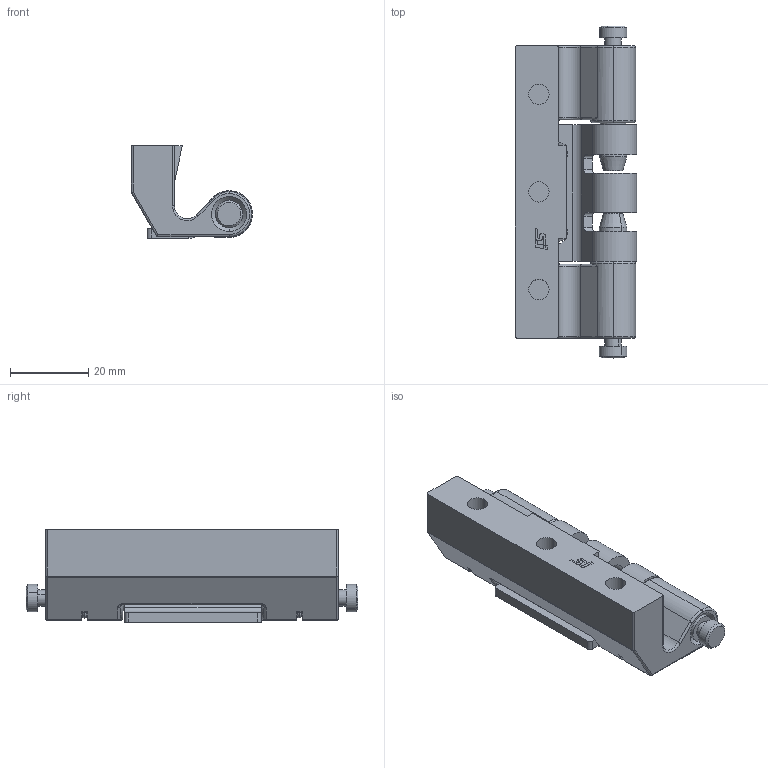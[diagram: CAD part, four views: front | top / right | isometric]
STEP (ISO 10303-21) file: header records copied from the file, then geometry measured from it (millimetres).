
FILE_DESCRIPTION (( 'STEP AP203' ), '1' );
FILE_NAME ('CL201S3Y003+CL201-1B蝓蟈.STEP', '2022-05-25T07:57:04', ( 'SJ' ), ( '' ), 'SwSTEP 2.0', 'SolidWorks 2020', '' );
FILE_SCHEMA (( 'CONFIG_CONTROL_DESIGN' ));
Length unit declared in the file: millimetre
Products named in the file (5): 8SJ.CL201-1B.0460静铰链（带SJ）; 8SJ.CL201-1.0450爪型附件（宽35）; CL201S3Y003+CL201-1B蝓蟈; 8SJ.CL201-1.0090蛌粣; 8SJ.CL201-1.0710揤銅
Assembly tree (6 placements, depth 2):
  CL201S3Y003+CL201-1B蝓蟈
    8SJ.CL201-1B.0460静铰链（带SJ）
    8SJ.CL201-1.0090蛌粣  x2
    8SJ.CL201-1.0710揤銅  x2
    8SJ.CL201-1.0450爪型附件（宽35）
Bounding box: 30.99 x 85 x 23.7 mm (x, y, z)
Volume: 24996.6 mm3; surface area: 14132.7 mm2
Topology: 6 solids, 6 shells, 275 faces, 663 edges, 402 vertices
Faces by surface type: plane 116, cylinder 111, cone 20, torus 18, sphere 6, bspline 4
Entity records: 7842 total; most frequent: CARTESIAN_POINT 1399, DIRECTION 1311, ORIENTED_EDGE 1186, EDGE_CURVE 593, AXIS2_PLACEMENT_3D 484, VERTEX_POINT 364, LINE 343, VECTOR 343
